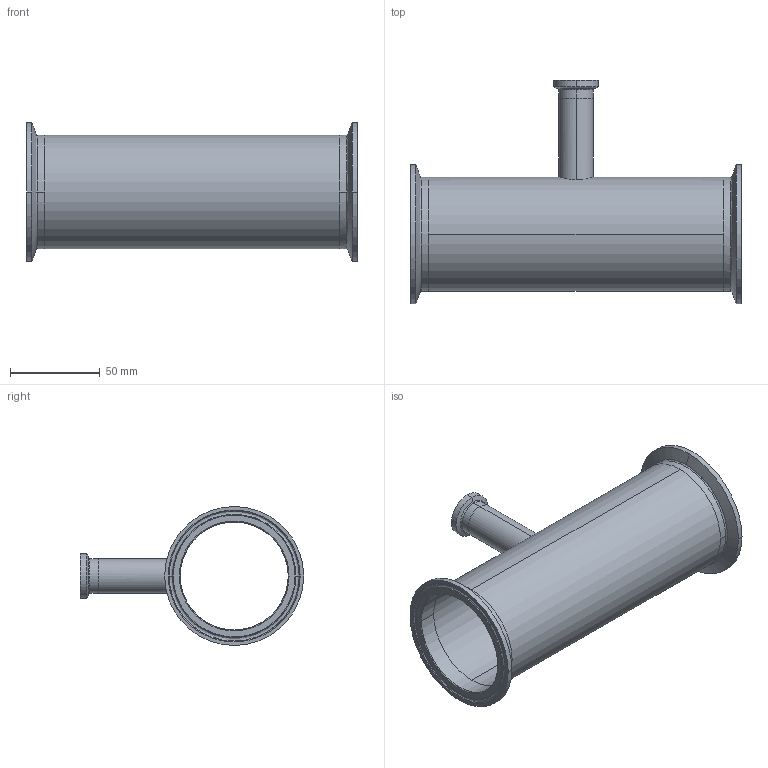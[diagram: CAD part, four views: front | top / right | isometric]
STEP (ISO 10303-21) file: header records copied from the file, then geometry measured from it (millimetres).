
FILE_DESCRIPTION (( 'STEP AP214' ), '1' );
FILE_NAME ('TEG7R6L2.5x.75-...STEP', '2016-05-24T06:49:53', ( 'eran' ), ( '' ), 'SwSTEP 2.0', 'SolidWorks 2016', '' );
FILE_SCHEMA (( 'AUTOMOTIVE_DESIGN' ));
Length unit declared in the file: millimetre
Products named in the file (1): TEG7R6L2.5x.75-..
Bounding box: 184.2 x 124.4 x 77.39 mm (x, y, z)
Volume: 76185.3 mm3; surface area: 85562.9 mm2
Topology: 4 solids, 4 shells, 84 faces, 198 edges, 126 vertices
Faces by surface type: cylinder 28, bspline 28, cone 16, plane 12
Entity records: 4143 total; most frequent: CARTESIAN_POINT 2157, DIRECTION 426, ORIENTED_EDGE 396, EDGE_CURVE 198, AXIS2_PLACEMENT_3D 191, CIRCLE 134, VERTEX_POINT 126, EDGE_LOOP 98
